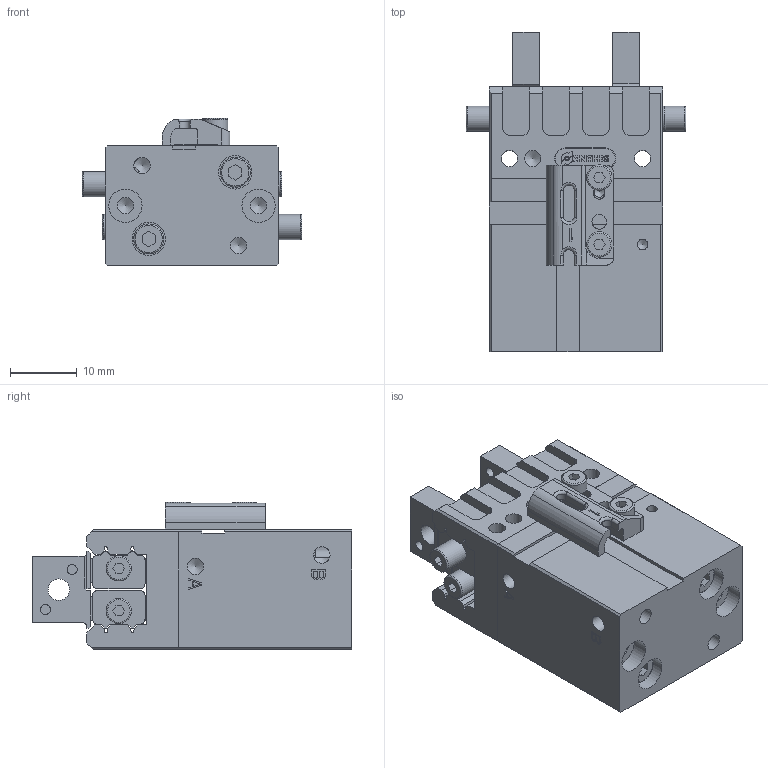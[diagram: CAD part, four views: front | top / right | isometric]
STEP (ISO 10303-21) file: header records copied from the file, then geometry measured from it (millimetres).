
FILE_DESCRIPTION(/* description */ ('STEP AP214'),/* implementation_level */ '2;1');
FILE_NAME(/* name */ 'SCHUNK-0305502 MPG-plus 25-AS_ 0000000',/* time_stamp */ '2026-03-26T06:45:20+01:00',/* author */ ('License CC BY-ND 4.0'),/* organization */ ('CADENAS'),/* preprocessor_version */ 'ST-DEVELOPER v20',/* originating_system */ 'PARTsolutions',/* authorisation */ ' ');
FILE_SCHEMA (('AUTOMOTIVE_DESIGN {1 0 10303 214 3 1 1}'));
Length unit declared in the file: millimetre
Products named in the file (8): SCHUNK-0305502 MPG-plus 25-AS, 0000000; SCHUNK-5519946 Gehaeuse MPG-plus 25 AS; SCHUNK-1007750 Bracket MPG-plus 25; SCHUNK-5518745 Abdeckgehaeuse MPG-plus 25; SCHUNK-5518747 Finger MPG-plus 25; SCHUNK-9962711 Bracket MPG 25; SCHUNK-1526243-Sonderschraube M2x4; SCHUNK-9941369 Typenschild 3x9x0.3
Assembly tree (14 placements, depth 2):
  SCHUNK-0305502 MPG-plus 25-AS, 0000000
    SCHUNK-5519946 Gehaeuse MPG-plus 25 AS
    SCHUNK-1007750 Bracket MPG-plus 25
    SCHUNK-5518745 Abdeckgehaeuse MPG-plus 25
    SCHUNK-5518747 Finger MPG-plus 25  x2
    SCHUNK-9962711 Bracket MPG 25  x4
    SCHUNK-1526243-Sonderschraube M2x4  x4
    SCHUNK-9941369 Typenschild 3x9x0.3
Bounding box: 33 x 48 x 22.1 mm (x, y, z)
Volume: 17076.2 mm3; surface area: 11042.4 mm2
Topology: 14 solids, 14 shells, 650 faces, 1732 edges, 1143 vertices
Faces by surface type: plane 459, cylinder 156, cone 24, torus 11
Full cylindrical faces by diameter (mm): 0.48 x1, 1.5 x4, 1.567 x11, 2 x2, 2.013 x2, 2.2 x2, 2.459 x11, 2.7 x2, 3.242 x2, 3.8 x6, 4.5 x2, 5 x6
Entity records: 18027 total; most frequent: CARTESIAN_POINT 2795, DIRECTION 2552, ORIENTED_EDGE 2544, EDGE_CURVE 1272, LINE 1004, VECTOR 1004, VERTEX_POINT 890, AXIS2_PLACEMENT_3D 774
